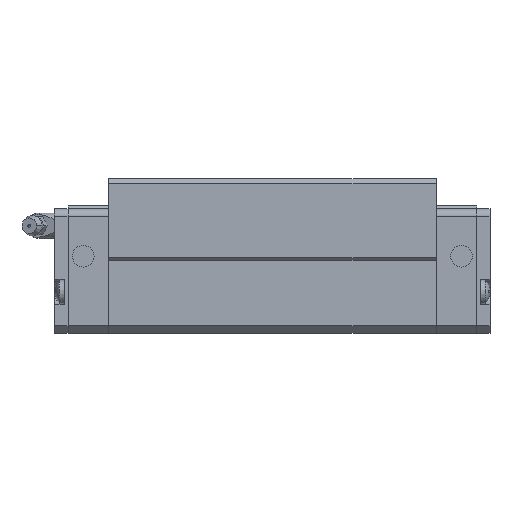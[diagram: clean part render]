
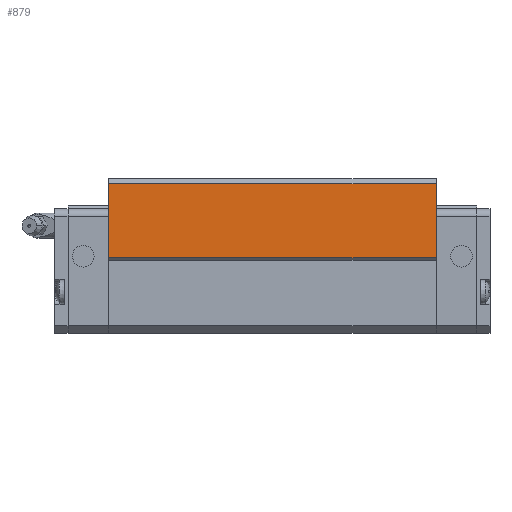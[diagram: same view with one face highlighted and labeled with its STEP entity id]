
A CAD part, front view. The second image highlights one B-rep face of the part: STEP entity #879.
In plain terms, the highlighted planar face has unit normal (0, -1, 0).
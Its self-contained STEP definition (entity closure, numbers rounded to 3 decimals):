
#818=CARTESIAN_POINT('POINT50',(150.,-43.,
   29.8));
#819=VERTEX_POINT('VERTEX50',#818);
#826=CARTESIAN_POINT('POINT51',(21.2,-43.,
   29.8));
#827=VERTEX_POINT('VERTEX51',#826);
#828=CARTESIAN_POINT('POS85',(21.2,-43.,
   29.8));
#829=DIRECTION('DIR126',(1.,0.,0.));
#830=VECTOR('VEC44',#829,1.);
#831=LINE('STRAIGHT44',#828,#830);
#832=EDGE_CURVE('EDGE82',#827,#819,#831,.T.);
#849=CARTESIAN_POINT('POINT52',(150.,-43.,
   58.8));
#850=VERTEX_POINT('VERTEX52',#849);
#851=CARTESIAN_POINT('POS88',(150.,-43.,
   58.8));
#852=DIRECTION('DIR130',(0.,0.,1.));
#853=VECTOR('VEC46',#852,1.);
#854=LINE('STRAIGHT46',#851,#853);
#855=EDGE_CURVE('EDGE84',#819,#850,#854,.T.);
#856=ORIENTED_EDGE('COEDGE151',*,*,#855,.T.);
#857=CARTESIAN_POINT('POINT53',(21.2,-43.,
   58.8));
#858=VERTEX_POINT('VERTEX53',#857);
#859=CARTESIAN_POINT('POS89',(21.2,-43.,
   58.8));
#860=DIRECTION('DIR131',(1.,0.,0.));
#861=VECTOR('VEC47',#860,1.);
#862=LINE('STRAIGHT47',#859,#861);
#863=EDGE_CURVE('EDGE85',#858,#850,#862,.T.);
#864=ORIENTED_EDGE('COEDGE152',*,*,#863,.F.);
#865=CARTESIAN_POINT('POS90',(21.2,-43.,
   58.8));
#866=DIRECTION('DIR132',(0.,0.,-1.));
#867=VECTOR('VEC48',#866,1.);
#868=LINE('STRAIGHT48',#865,#867);
#869=EDGE_CURVE('EDGE86',#858,#827,#868,.T.);
#870=ORIENTED_EDGE('COEDGE153',*,*,#869,.T.);
#871=ORIENTED_EDGE('COEDGE154',*,*,#832,.T.);
#872=EDGE_LOOP('NONE',(#856,#864,#870,#871));
#873=FACE_BOUND('LOOP1',#872,.T.);
#874=CARTESIAN_POINT('POS91',(21.2,-43.,
   29.8));
#875=DIRECTION('DIR133',(0.,-1.,0.));
#876=DIRECTION('DIR134',(1.,0.,0.));
#877=AXIS2_PLACEMENT_3D('AXIS43',#874,#875,#876);
#878=PLANE('PLANE8',#877);
#879=ADVANCED_FACE('FACE40',(#873),#878,.T.);
